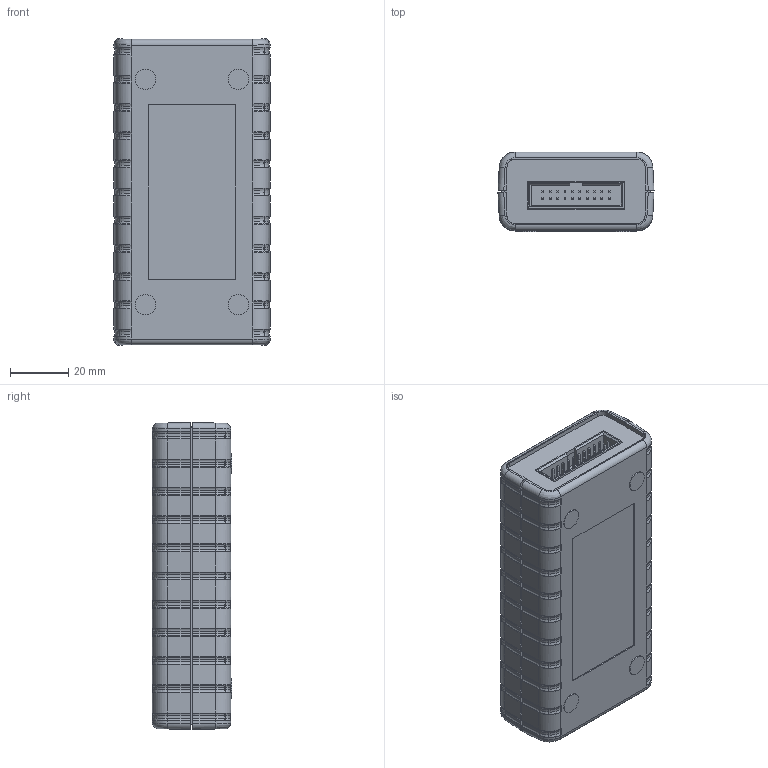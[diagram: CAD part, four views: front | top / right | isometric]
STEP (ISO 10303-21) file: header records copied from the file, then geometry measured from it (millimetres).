
FILE_DESCRIPTION (( 'STEP AP214' ), '1' );
FILE_NAME ('JLinkPro_Assembly.STEP', '2026-02-18T13:11:43', ( '' ), ( '' ), 'SwSTEP 2.0', 'SolidWorks 2020', '' );
FILE_SCHEMA (( 'AUTOMOTIVE_DESIGN' ));
Length unit declared in the file: millimetre
Products named in the file (1): JLinkPro_Assembly
Bounding box: 53.73 x 27.3 x 105.61 mm (x, y, z)
Volume: 83754.3 mm3; surface area: 56349.3 mm2
Topology: 97 solids, 97 shells, 5103 faces, 13250 edges, 8388 vertices
Faces by surface type: plane 2876, cylinder 1338, bspline 819, cone 48, torus 16, sphere 6
Entity records: 240071 total; most frequent: CARTESIAN_POINT 63667, ORIENTED_EDGE 26472, DIRECTION 22255, EDGE_CURVE 13236, VECTOR 8463, LINE 8463, VERTEX_POINT 8388, AXIS2_PLACEMENT_3D 6896
